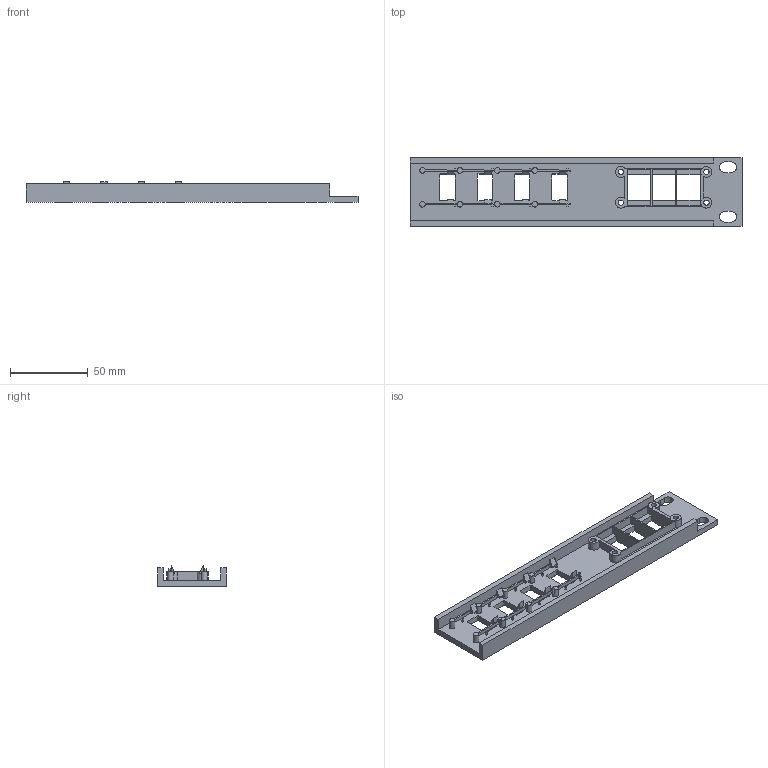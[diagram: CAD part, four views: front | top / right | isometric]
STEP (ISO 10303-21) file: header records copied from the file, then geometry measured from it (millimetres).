
FILE_DESCRIPTION(('Open CASCADE Model'),'2;1');
FILE_NAME('Open CASCADE Shape Model','2026-09-27T12:12:25',('Author'),( 'Open CASCADE'),'Open CASCADE STEP processor 7.9','Open CASCADE 7.9' ,'Unknown');
FILE_SCHEMA(('AUTOMOTIVE_DESIGN { 1 0 10303 214 1 1 1 1 }'));
Length unit declared in the file: millimetre
Products named in the file (1): Open CASCADE STEP translator 7.9 1
Bounding box: 212.93 x 44 x 13.45 mm (x, y, z)
Volume: 44819.1 mm3; surface area: 30815.3 mm2
Topology: 1 solids, 1 shells, 564 faces, 1553 edges, 1030 vertices
Faces by surface type: plane 391, extrusion 117, cylinder 56
Full cylindrical faces by diameter (mm): 3.4 x4, 3.6 x8
Entity records: 39383 total; most frequent: CARTESIAN_POINT 9963, DIRECTION 4697, VECTOR 3397, LINE 3280, ORIENTED_EDGE 3106, PCURVE 3106, DEFINITIONAL_REPRESENTATION 3106, EDGE_CURVE 1553
